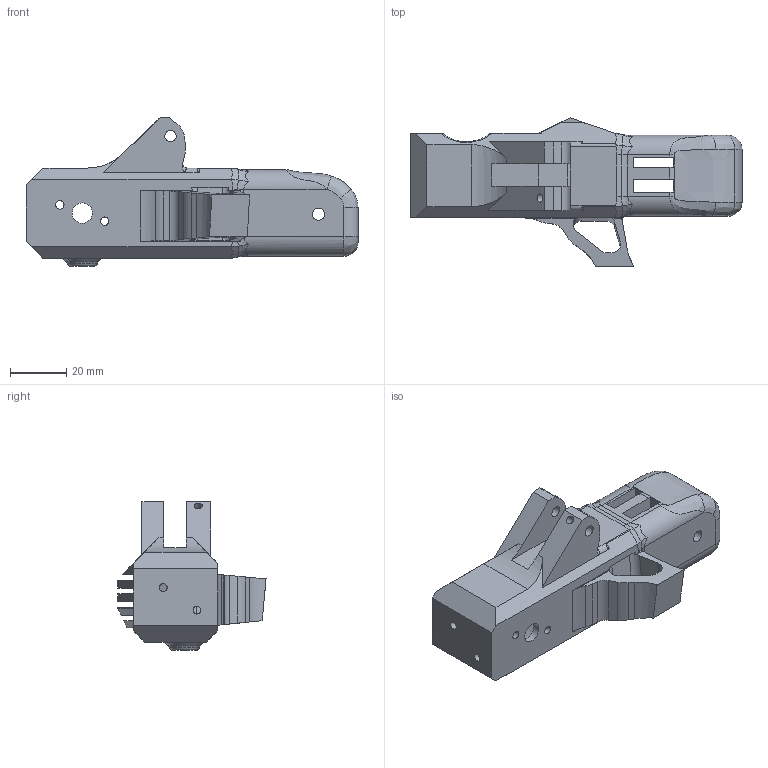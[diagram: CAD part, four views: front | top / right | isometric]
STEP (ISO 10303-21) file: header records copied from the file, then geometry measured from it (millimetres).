
FILE_DESCRIPTION(/* description */ (''),/* implementation_level */ '2;1');
FILE_NAME(/* name */ '前臂左.prt.stp',/* time_stamp */ '2021-03-21T20:49:00+08:00',/* author */ (''),/* organization */ (''),/* preprocessor_version */ 'ST-DEVELOPER v16',/* originating_system */ 'SIEMENS PLM Software NX 10.0',/* authorisation */ '');
FILE_SCHEMA (('CONFIG_CONTROL_DESIGN'));
Length unit declared in the file: millimetre
Products named in the file (1): 前臂左
Bounding box: 118 x 52.66 x 52.95 mm (x, y, z)
Volume: 82709.4 mm3; surface area: 27171 mm2
Topology: 1 solids, 1 shells, 212 faces, 586 edges, 378 vertices
Faces by surface type: plane 119, cylinder 49, bspline 37, torus 4, cone 2, extrusion 1
Full cylindrical faces by diameter (mm): 2.8 x2, 2.9 x4, 3 x2, 4 x2, 4.3 x1, 7.2 x1, 25.6 x1, 27 x2
Entity records: 7787 total; most frequent: CARTESIAN_POINT 2646, ORIENTED_EDGE 1112, DIRECTION 921, EDGE_CURVE 556, VERTEX_POINT 367, VECTOR 325, LINE 324, AXIS2_PLACEMENT_3D 298
